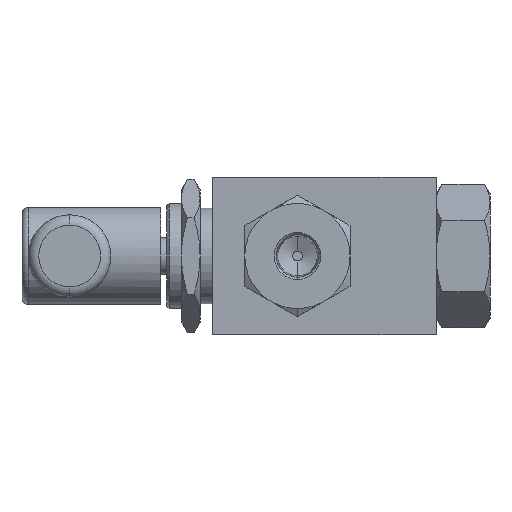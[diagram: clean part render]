
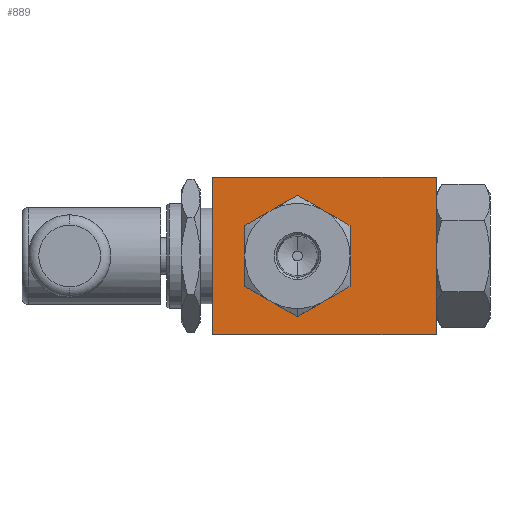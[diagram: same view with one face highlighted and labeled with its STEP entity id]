
A CAD part, left-side view. The second image highlights one B-rep face of the part: STEP entity #889.
In plain terms, the highlighted planar face has unit normal (-1, 0, 0).
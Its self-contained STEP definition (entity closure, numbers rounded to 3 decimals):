
#17 = CARTESIAN_POINT ( 'NONE',  ( -33.25, 12., -9.526 ) ) ;
#60 = DIRECTION ( 'NONE',  ( 0., 0., -1. ) ) ;
#151 = CARTESIAN_POINT ( 'NONE',  ( -33.25, 27., 19. ) ) ;
#349 = DIRECTION ( 'NONE',  ( 0., 0., -1. ) ) ;
#358 = DIRECTION ( 'NONE',  ( 0., 0., -1. ) ) ;
#367 = DIRECTION ( 'NONE',  ( 1., 0., 0. ) ) ;
#416 = AXIS2_PLACEMENT_3D ( 'NONE', #5733, #3278, #4767 ) ;
#418 = EDGE_CURVE ( 'NONE', #4673, #3318, #3218, .T. ) ;
#501 = CARTESIAN_POINT ( 'NONE',  ( -33.25, 27., 19. ) ) ;
#517 = ORIENTED_EDGE ( 'NONE', *, *, #418, .F. ) ;
#518 = CARTESIAN_POINT ( 'NONE',  ( -33.25, -27., 19. ) ) ;
#550 = DIRECTION ( 'NONE',  ( 0., -1., 0. ) ) ;
#558 = DIRECTION ( 'NONE',  ( 1., 0., 0. ) ) ;
#664 = VECTOR ( 'NONE', #5271, 1000. ) ;
#838 = ORIENTED_EDGE ( 'NONE', *, *, #3780, .T. ) ;
#877 = CARTESIAN_POINT ( 'NONE',  ( -33.25, -27., -19. ) ) ;
#889 = ADVANCED_FACE ( 'NONE', ( #3022, #2963 ), #6002, .F. ) ;
#890 = CIRCLE ( 'NONE', #4934, 11. ) ;
#1061 = CARTESIAN_POINT ( 'NONE',  ( -33.25, 1., 9.526 ) ) ;
#1186 = DIRECTION ( 'NONE',  ( 0., 0., -1. ) ) ;
#1234 = CARTESIAN_POINT ( 'NONE',  ( -33.25, 27., -19. ) ) ;
#1339 = CARTESIAN_POINT ( 'NONE',  ( -33.25, 6.5, 11. ) ) ;
#1341 = AXIS2_PLACEMENT_3D ( 'NONE', #518, #5939, #4545 ) ;
#1626 = EDGE_CURVE ( 'NONE', #1977, #4533, #890, .T. ) ;
#1700 = ORIENTED_EDGE ( 'NONE', *, *, #4043, .T. ) ;
#1921 = CIRCLE ( 'NONE', #5046, 11. ) ;
#1922 = CARTESIAN_POINT ( 'NONE',  ( -33.25, -27., 19. ) ) ;
#1977 = VERTEX_POINT ( 'NONE', #4900 ) ;
#1988 = ORIENTED_EDGE ( 'NONE', *, *, #1626, .T. ) ;
#2006 = AXIS2_PLACEMENT_3D ( 'NONE', #6137, #558, #3494 ) ;
#2039 = ORIENTED_EDGE ( 'NONE', *, *, #3303, .T. ) ;
#2057 = DIRECTION ( 'NONE',  ( 1., 0., 0. ) ) ;
#2082 = CARTESIAN_POINT ( 'NONE',  ( -33.25, 12., 9.526 ) ) ;
#2259 = CARTESIAN_POINT ( 'NONE',  ( -33.25, -27., 19. ) ) ;
#2416 = ORIENTED_EDGE ( 'NONE', *, *, #5519, .T. ) ;
#2459 = CARTESIAN_POINT ( 'NONE',  ( -33.25, 6.5, 0. ) ) ;
#2543 = CARTESIAN_POINT ( 'NONE',  ( -33.25, -27., -19. ) ) ;
#2716 = VERTEX_POINT ( 'NONE', #3231 ) ;
#2951 = CIRCLE ( 'NONE', #5465, 11. ) ;
#2956 = CARTESIAN_POINT ( 'NONE',  ( -33.25, 1., -9.526 ) ) ;
#2963 = FACE_BOUND ( 'NONE', #6066, .T. ) ;
#2999 = ORIENTED_EDGE ( 'NONE', *, *, #3312, .F. ) ;
#3022 = FACE_OUTER_BOUND ( 'NONE', #6108, .T. ) ;
#3091 = AXIS2_PLACEMENT_3D ( 'NONE', #4333, #4267, #349 ) ;
#3100 = VERTEX_POINT ( 'NONE', #1234 ) ;
#3195 = EDGE_CURVE ( 'NONE', #3100, #3318, #6242, .T. ) ;
#3218 = LINE ( 'NONE', #2259, #6406 ) ;
#3231 = CARTESIAN_POINT ( 'NONE',  ( -33.25, -4.5, 0. ) ) ;
#3278 = DIRECTION ( 'NONE',  ( 1., 0., 0. ) ) ;
#3303 = EDGE_CURVE ( 'NONE', #5385, #2716, #3544, .T. ) ;
#3312 = EDGE_CURVE ( 'NONE', #4977, #4673, #5488, .T. ) ;
#3318 = VERTEX_POINT ( 'NONE', #2543 ) ;
#3340 = VECTOR ( 'NONE', #550, 1000. ) ;
#3383 = ORIENTED_EDGE ( 'NONE', *, *, #5111, .T. ) ;
#3420 = CARTESIAN_POINT ( 'NONE',  ( -33.25, -27., 19. ) ) ;
#3494 = DIRECTION ( 'NONE',  ( 0., 0., -1. ) ) ;
#3544 = CIRCLE ( 'NONE', #4396, 11. ) ;
#3780 = EDGE_CURVE ( 'NONE', #5057, #5385, #1921, .T. ) ;
#3824 = DIRECTION ( 'NONE',  ( 0., 0., -1. ) ) ;
#3934 = DIRECTION ( 'NONE',  ( 0., 0., -1. ) ) ;
#4036 = ORIENTED_EDGE ( 'NONE', *, *, #3195, .T. ) ;
#4043 = EDGE_CURVE ( 'NONE', #4533, #5057, #2951, .T. ) ;
#4089 = CIRCLE ( 'NONE', #2006, 11. ) ;
#4224 = VERTEX_POINT ( 'NONE', #17 ) ;
#4246 = CIRCLE ( 'NONE', #3091, 11. ) ;
#4267 = DIRECTION ( 'NONE',  ( 1., 0., 0. ) ) ;
#4333 = CARTESIAN_POINT ( 'NONE',  ( -33.25, 6.5, 0. ) ) ;
#4396 = AXIS2_PLACEMENT_3D ( 'NONE', #4809, #367, #3824 ) ;
#4461 = DIRECTION ( 'NONE',  ( 1., 0., 0. ) ) ;
#4533 = VERTEX_POINT ( 'NONE', #2082 ) ;
#4545 = DIRECTION ( 'NONE',  ( 0., 0., -1. ) ) ;
#4557 = ORIENTED_EDGE ( 'NONE', *, *, #5628, .T. ) ;
#4673 = VERTEX_POINT ( 'NONE', #1922 ) ;
#4700 = CARTESIAN_POINT ( 'NONE',  ( -33.25, 6.5, 0. ) ) ;
#4767 = DIRECTION ( 'NONE',  ( 0., 0., -1. ) ) ;
#4809 = CARTESIAN_POINT ( 'NONE',  ( -33.25, 6.5, 0. ) ) ;
#4890 = CARTESIAN_POINT ( 'NONE',  ( -33.25, 6.5, 0. ) ) ;
#4900 = CARTESIAN_POINT ( 'NONE',  ( -33.25, 17.5, 0. ) ) ;
#4934 = AXIS2_PLACEMENT_3D ( 'NONE', #2459, #4461, #3934 ) ;
#4977 = VERTEX_POINT ( 'NONE', #501 ) ;
#5046 = AXIS2_PLACEMENT_3D ( 'NONE', #4890, #5866, #60 ) ;
#5057 = VERTEX_POINT ( 'NONE', #1339 ) ;
#5111 = EDGE_CURVE ( 'NONE', #6062, #4224, #4089, .T. ) ;
#5271 = DIRECTION ( 'NONE',  ( 0., -1., 0. ) ) ;
#5385 = VERTEX_POINT ( 'NONE', #1061 ) ;
#5465 = AXIS2_PLACEMENT_3D ( 'NONE', #4700, #2057, #6028 ) ;
#5488 = LINE ( 'NONE', #3420, #3340 ) ;
#5519 = EDGE_CURVE ( 'NONE', #4977, #3100, #6059, .T. ) ;
#5564 = ORIENTED_EDGE ( 'NONE', *, *, #5593, .T. ) ;
#5593 = EDGE_CURVE ( 'NONE', #4224, #1977, #6010, .T. ) ;
#5628 = EDGE_CURVE ( 'NONE', #2716, #6062, #4246, .T. ) ;
#5733 = CARTESIAN_POINT ( 'NONE',  ( -33.25, 6.5, 0. ) ) ;
#5866 = DIRECTION ( 'NONE',  ( 1., 0., 0. ) ) ;
#5939 = DIRECTION ( 'NONE',  ( 1., 0., 0. ) ) ;
#6002 = PLANE ( 'NONE',  #1341 ) ;
#6010 = CIRCLE ( 'NONE', #416, 11. ) ;
#6028 = DIRECTION ( 'NONE',  ( 0., 0., -1. ) ) ;
#6059 = LINE ( 'NONE', #151, #6227 ) ;
#6062 = VERTEX_POINT ( 'NONE', #2956 ) ;
#6066 = EDGE_LOOP ( 'NONE', ( #3383, #5564, #1988, #1700, #838, #2039, #4557 ) ) ;
#6108 = EDGE_LOOP ( 'NONE', ( #4036, #517, #2999, #2416 ) ) ;
#6137 = CARTESIAN_POINT ( 'NONE',  ( -33.25, 6.5, 0. ) ) ;
#6227 = VECTOR ( 'NONE', #1186, 1000. ) ;
#6242 = LINE ( 'NONE', #877, #664 ) ;
#6406 = VECTOR ( 'NONE', #358, 1000. ) ;
